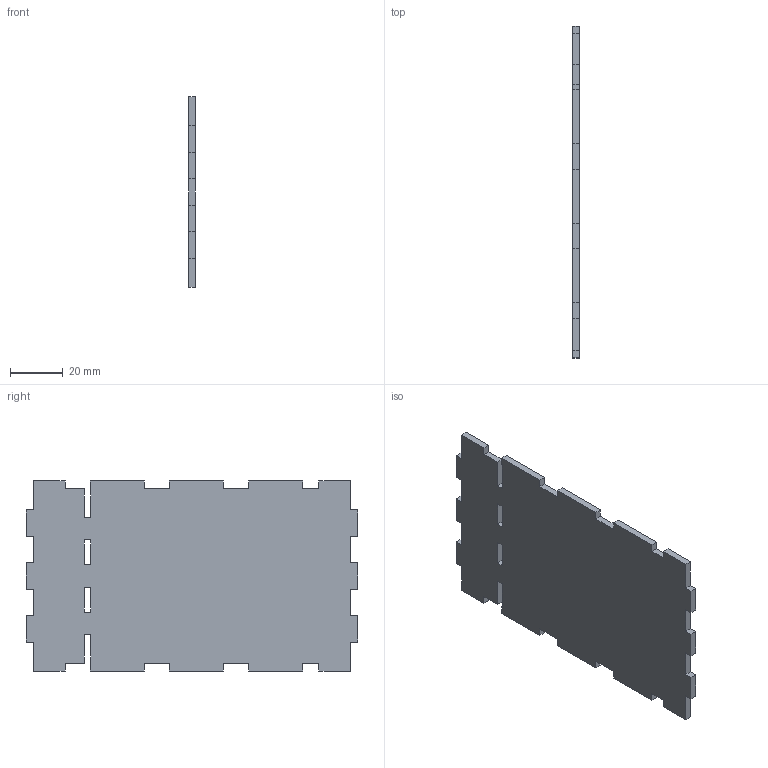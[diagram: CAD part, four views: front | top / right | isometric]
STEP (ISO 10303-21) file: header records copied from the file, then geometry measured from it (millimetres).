
FILE_DESCRIPTION (( 'STEP AP214' ), '1' );
FILE_NAME ('ladocorto.STEP', '2025-06-15T00:41:49', ( '' ), ( '' ), 'SwSTEP 2.0', 'SolidWorks 2024', '' );
FILE_SCHEMA (( 'AUTOMOTIVE_DESIGN' ));
Length unit declared in the file: millimetre
Products named in the file (1): ladocorto
Bounding box: 2.5 x 125.6 x 72 mm (x, y, z)
Volume: 21244.7 mm3; surface area: 18391.5 mm2
Topology: 1 solids, 1 shells, 78 faces, 228 edges, 152 vertices
Faces by surface type: plane 78
Entity records: 2563 total; most frequent: CARTESIAN_POINT 459, ORIENTED_EDGE 456, DIRECTION 386, LINE 228, EDGE_CURVE 228, VECTOR 228, VERTEX_POINT 152, EDGE_LOOP 82
